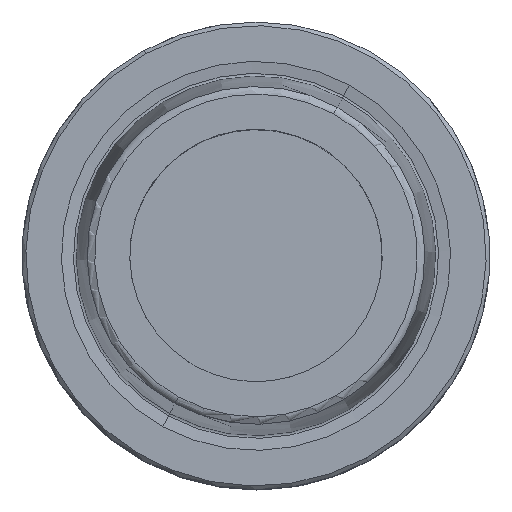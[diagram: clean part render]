
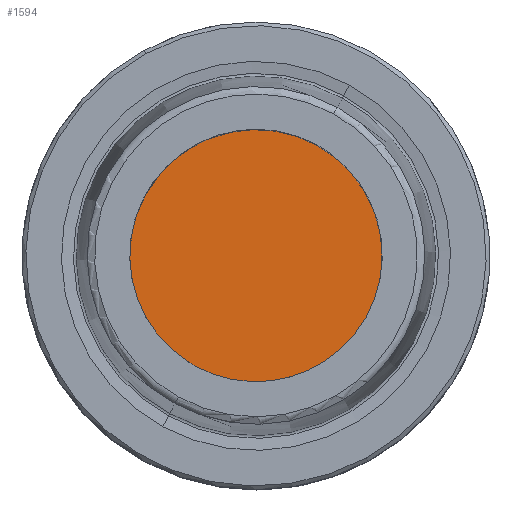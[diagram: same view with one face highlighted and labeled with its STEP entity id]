
A CAD part, top view. The second image highlights one B-rep face of the part: STEP entity #1594.
In plain terms, the highlighted planar face has unit normal (0, 0, 1).
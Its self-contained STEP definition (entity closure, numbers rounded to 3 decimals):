
#1552=AXIS2_PLACEMENT_3D('Circle Axis2P3D',#1550,#1551,$) ;
#1573=AXIS2_PLACEMENT_3D('Circle Axis2P3D',#1571,#1572,$) ;
#1588=AXIS2_PLACEMENT_3D('Plane Axis2P3D',#1585,#1586,#1587) ;
#1547=CARTESIAN_POINT('Vertex',(-8.15,-14.919,-2.)) ;
#1550=CARTESIAN_POINT('Axis2P3D Location',(0.,0.,-2.)) ;
#1554=CARTESIAN_POINT('Vertex',(8.15,14.919,-2.)) ;
#1571=CARTESIAN_POINT('Axis2P3D Location',(0.,0.,-2.)) ;
#1585=CARTESIAN_POINT('Axis2P3D Location',(0.,25.,-2.)) ;
#1551=DIRECTION('Axis2P3D Direction',(0.,0.,1.)) ;
#1572=DIRECTION('Axis2P3D Direction',(0.,0.,1.)) ;
#1586=DIRECTION('Axis2P3D Direction',(0.,0.,-1.)) ;
#1587=DIRECTION('Axis2P3D XDirection',(1.,0.,0.)) ;
#1591=ORIENTED_EDGE('',*,*,#1556,.T.) ;
#1592=ORIENTED_EDGE('',*,*,#1575,.T.) ;
#1594=ADVANCED_FACE('NOCUT',(#1593),#1589,.F.) ;
#1553=CIRCLE('generated circle',#1552,17.) ;
#1574=CIRCLE('generated circle',#1573,17.) ;
#1556=EDGE_CURVE('',#1555,#1548,#1553,.T.) ;
#1575=EDGE_CURVE('',#1548,#1555,#1574,.T.) ;
#1590=EDGE_LOOP('',(#1591,#1592)) ;
#1593=FACE_OUTER_BOUND('',#1590,.T.) ;
#1589=PLANE('',#1588) ;
#1548=VERTEX_POINT('',#1547) ;
#1555=VERTEX_POINT('',#1554) ;
